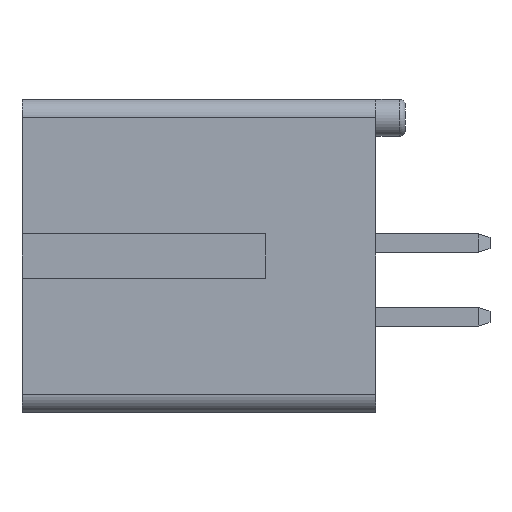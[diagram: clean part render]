
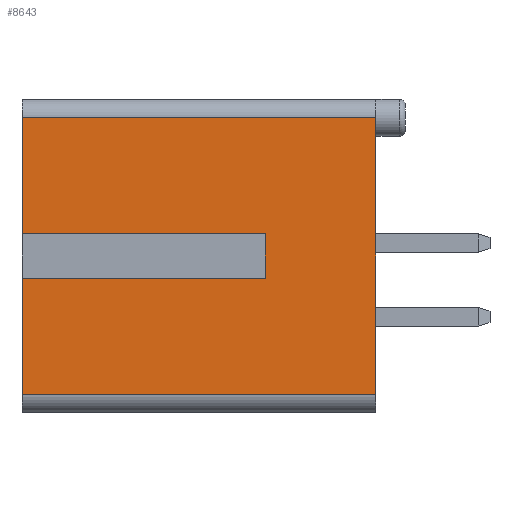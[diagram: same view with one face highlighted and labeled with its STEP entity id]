
A CAD part, left-side view. The second image highlights one B-rep face of the part: STEP entity #8643.
In plain terms, the highlighted planar face has unit normal (-1, 0, 0).
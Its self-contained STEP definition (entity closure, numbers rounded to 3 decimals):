
#42=DIRECTION('',(0.,0.,1.));
#43=VECTOR('',#42,7.5);
#44=CARTESIAN_POINT('',(-9.,0.,-3.75));
#45=LINE('',#44,#43);
#1216=DIRECTION('',(0.,0.,-1.));
#1217=VECTOR('',#1216,1.2);
#1218=CARTESIAN_POINT('',(-9.,3.,0.6));
#1219=LINE('',#1218,#1217);
#1220=DIRECTION('',(0.,-1.,0.));
#1221=VECTOR('',#1220,6.6);
#1222=CARTESIAN_POINT('',(-9.,9.6,0.6));
#1223=LINE('',#1222,#1221);
#1224=DIRECTION('',(0.,-1.,0.));
#1225=VECTOR('',#1224,9.6);
#1226=CARTESIAN_POINT('',(-9.,9.6,3.75));
#1227=LINE('',#1226,#1225);
#1228=DIRECTION('',(0.,-1.,0.));
#1229=VECTOR('',#1228,9.6);
#1230=CARTESIAN_POINT('',(-9.,9.6,-3.75));
#1231=LINE('',#1230,#1229);
#1232=DIRECTION('',(0.,-1.,0.));
#1233=VECTOR('',#1232,6.6);
#1234=CARTESIAN_POINT('',(-9.,9.6,-0.6));
#1235=LINE('',#1234,#1233);
#1349=DIRECTION('',(0.,0.,1.));
#1350=VECTOR('',#1349,3.15);
#1351=CARTESIAN_POINT('',(-9.,9.6,0.6));
#1352=LINE('',#1351,#1350);
#1365=DIRECTION('',(0.,0.,1.));
#1366=VECTOR('',#1365,3.15);
#1367=CARTESIAN_POINT('',(-9.,9.6,-3.75));
#1368=LINE('',#1367,#1366);
#6000=CARTESIAN_POINT('',(-9.,0.,3.75));
#6002=VERTEX_POINT('',#6000);
#6003=CARTESIAN_POINT('',(-9.,9.6,3.75));
#6004=VERTEX_POINT('',#6003);
#6007=CARTESIAN_POINT('',(-9.,0.,-3.75));
#6009=VERTEX_POINT('',#6007);
#6013=CARTESIAN_POINT('',(-9.,9.6,-3.75));
#6014=VERTEX_POINT('',#6013);
#6047=CARTESIAN_POINT('',(-9.,9.6,0.6));
#6049=VERTEX_POINT('',#6047);
#6053=CARTESIAN_POINT('',(-9.,9.6,-0.6));
#6054=VERTEX_POINT('',#6053);
#6055=CARTESIAN_POINT('',(-9.,3.,0.6));
#6056=CARTESIAN_POINT('',(-9.,3.,-0.6));
#6057=VERTEX_POINT('',#6055);
#6058=VERTEX_POINT('',#6056);
#8622=CARTESIAN_POINT('',(-9.,0.,-4.25));
#8623=DIRECTION('',(-1.,0.,0.));
#8624=DIRECTION('',(0.,0.,1.));
#8625=AXIS2_PLACEMENT_3D('',#8622,#8623,#8624);
#8626=PLANE('',#8625);
#8628=ORIENTED_EDGE('',*,*,#8627,.F.);
#8630=ORIENTED_EDGE('',*,*,#8629,.F.);
#8632=ORIENTED_EDGE('',*,*,#8631,.T.);
#8633=ORIENTED_EDGE('',*,*,#8614,.T.);
#8634=ORIENTED_EDGE('',*,*,#7914,.F.);
#8636=ORIENTED_EDGE('',*,*,#8635,.F.);
#8638=ORIENTED_EDGE('',*,*,#8637,.T.);
#8640=ORIENTED_EDGE('',*,*,#8639,.T.);
#8641=EDGE_LOOP('',(#8628,#8630,#8632,#8633,#8634,#8636,#8638,#8640));
#8642=FACE_OUTER_BOUND('',#8641,.F.);
#7914=EDGE_CURVE('',#6009,#6002,#45,.T.);
#8614=EDGE_CURVE('',#6004,#6002,#1227,.T.);
#8627=EDGE_CURVE('',#6057,#6058,#1219,.T.);
#8629=EDGE_CURVE('',#6049,#6057,#1223,.T.);
#8631=EDGE_CURVE('',#6049,#6004,#1352,.T.);
#8635=EDGE_CURVE('',#6014,#6009,#1231,.T.);
#8637=EDGE_CURVE('',#6014,#6054,#1368,.T.);
#8639=EDGE_CURVE('',#6054,#6058,#1235,.T.);
#8643=ADVANCED_FACE('',(#8642),#8626,.T.);
